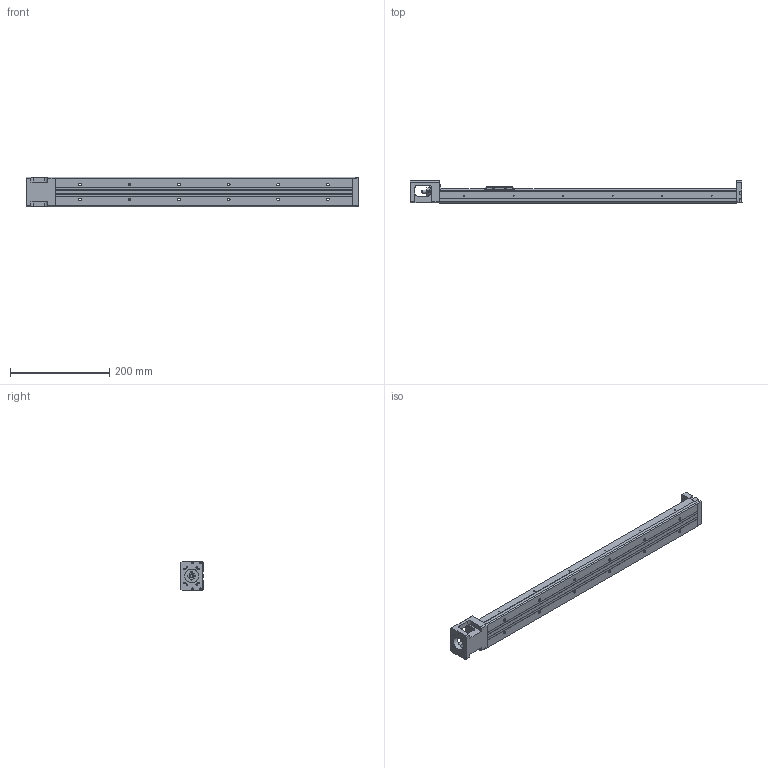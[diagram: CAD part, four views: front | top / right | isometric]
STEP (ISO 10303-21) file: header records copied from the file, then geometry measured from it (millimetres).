
FILE_DESCRIPTION(/* description */ (''),/* implementation_level */ '2;1');
FILE_NAME(/* name */ 'KP33N-600.stp',/* time_stamp */ '2020-06-04T17:33:02+08:00',/* author */ (''),/* organization */ (''),/* preprocessor_version */ 'ST-DEVELOPER v14',/* originating_system */ 'SIEMENS PLM Software NX 8.0',/* authorisation */ '');
FILE_SCHEMA (('AUTOMOTIVE_DESIGN { 1 0 10303 214 3 1 1 1 }'));
Length unit declared in the file: millimetre
Products named in the file (1): model1
Bounding box: 670 x 44.45 x 60 mm (x, y, z)
Volume: 684015 mm3; surface area: 193590.1 mm2
Topology: 5 solids, 14 shells, 670 faces, 1694 edges, 1115 vertices
Faces by surface type: plane 385, cylinder 200, bspline 31, cone 22, extrusion 21, torus 9, revolution 2
Full cylindrical faces by diameter (mm): 1.6 x5, 1.65 x4, 2.15 x6, 2.42 x4, 2.45 x4, 2.5 x16, 3.2 x4, 3.3 x4, 3.4 x4, 3.5 x10, 3.969 x1, 4 x4, 4.001 x1, 4.135 x2, 5.5 x12, 6 x5, 7.6 x1, 8 x5, 9.5 x12, 10.72 x3, 11.8 x2, 12 x6, 12.8 x1, 13 x2, 14 x1, 17.38 x3, 21.5 x1, 22 x2, 28 x1
Entity records: 34842 total; most frequent: CARTESIAN_POINT 16374, DIRECTION 3028, ORIENTED_EDGE 2922, EDGE_CURVE 1461, AXIS2_PLACEMENT_3D 1089, VERTEX_POINT 1041, EDGE_LOOP 962, VECTOR 848
